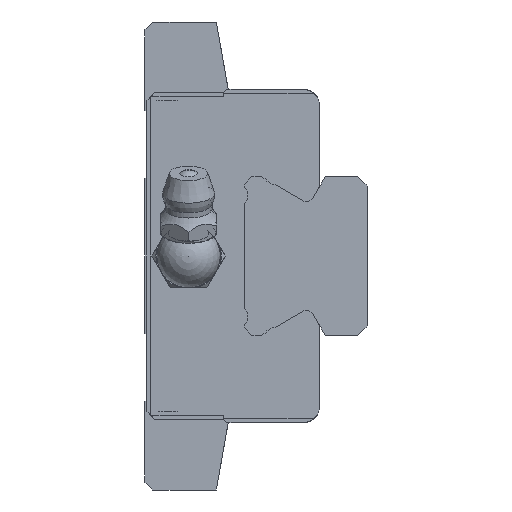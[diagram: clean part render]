
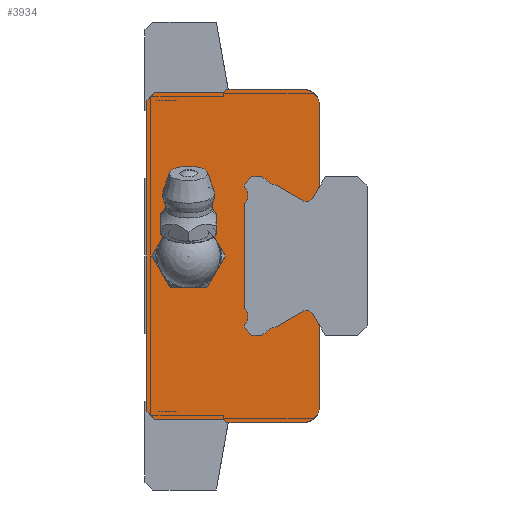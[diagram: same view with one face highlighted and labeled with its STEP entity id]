
A CAD part, left-side view. The second image highlights one B-rep face of the part: STEP entity #3934.
In plain terms, the highlighted planar face has unit normal (-1, 0, 0).
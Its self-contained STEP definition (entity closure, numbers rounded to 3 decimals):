
#96=LINE('',#6015,#452);
#103=LINE('',#6029,#459);
#136=LINE('',#6100,#492);
#152=LINE('',#6133,#508);
#155=LINE('',#6138,#511);
#162=LINE('',#6155,#518);
#179=LINE('',#6184,#535);
#183=LINE('',#6193,#539);
#185=LINE('',#6198,#541);
#188=LINE('',#6206,#544);
#189=LINE('',#6210,#545);
#190=LINE('',#6212,#546);
#191=LINE('',#6214,#547);
#192=LINE('',#6218,#548);
#193=LINE('',#6222,#549);
#194=LINE('',#6224,#550);
#195=LINE('',#6226,#551);
#196=LINE('',#6228,#552);
#197=LINE('',#6232,#553);
#198=LINE('',#6236,#554);
#199=LINE('',#6238,#555);
#200=LINE('',#6240,#556);
#201=LINE('',#6242,#557);
#202=LINE('',#6246,#558);
#452=VECTOR('',#4735,1000.);
#459=VECTOR('',#4746,1000.);
#492=VECTOR('',#4801,1000.);
#508=VECTOR('',#4823,1000.);
#511=VECTOR('',#4828,1000.);
#518=VECTOR('',#4845,1000.);
#535=VECTOR('',#4868,1000.);
#539=VECTOR('',#4874,1000.);
#541=VECTOR('',#4878,1000.);
#544=VECTOR('',#4885,1000.);
#545=VECTOR('',#4888,1000.);
#546=VECTOR('',#4889,1000.);
#547=VECTOR('',#4892,1000.);
#548=VECTOR('',#4895,1000.);
#549=VECTOR('',#4898,1000.);
#550=VECTOR('',#4899,1000.);
#551=VECTOR('',#4900,1000.);
#552=VECTOR('',#4901,1000.);
#553=VECTOR('',#4904,1000.);
#554=VECTOR('',#4907,1000.);
#555=VECTOR('',#4908,1000.);
#556=VECTOR('',#4909,1000.);
#557=VECTOR('',#4910,1000.);
#558=VECTOR('',#4913,1000.);
#803=PLANE('',#4240);
#1013=CIRCLE('',#4241,3.);
#1014=CIRCLE('',#4242,2.);
#1015=CIRCLE('',#4243,2.);
#1016=CIRCLE('',#4244,1.);
#1017=CIRCLE('',#4245,1.65);
#1018=CIRCLE('',#4246,1.65);
#1019=CIRCLE('',#4247,1.65);
#1020=CIRCLE('',#4248,1.65);
#1021=CIRCLE('',#4249,1.);
#1431=ORIENTED_EDGE('',*,*,#2397,.T.);
#1432=ORIENTED_EDGE('',*,*,#2398,.F.);
#1433=ORIENTED_EDGE('',*,*,#2392,.F.);
#1434=ORIENTED_EDGE('',*,*,#2399,.F.);
#1435=ORIENTED_EDGE('',*,*,#2400,.F.);
#1436=ORIENTED_EDGE('',*,*,#2401,.F.);
#1437=ORIENTED_EDGE('',*,*,#2371,.F.);
#1438=ORIENTED_EDGE('',*,*,#2359,.F.);
#1439=ORIENTED_EDGE('',*,*,#2388,.F.);
#1440=ORIENTED_EDGE('',*,*,#2343,.F.);
#1441=ORIENTED_EDGE('',*,*,#2362,.F.);
#1442=ORIENTED_EDGE('',*,*,#2308,.F.);
#1443=ORIENTED_EDGE('',*,*,#2301,.F.);
#1444=ORIENTED_EDGE('',*,*,#2402,.F.);
#1445=ORIENTED_EDGE('',*,*,#2394,.F.);
#1446=ORIENTED_EDGE('',*,*,#2403,.F.);
#1447=ORIENTED_EDGE('',*,*,#2404,.T.);
#1448=ORIENTED_EDGE('',*,*,#2405,.F.);
#1449=ORIENTED_EDGE('',*,*,#2406,.T.);
#1450=ORIENTED_EDGE('',*,*,#2407,.F.);
#1451=ORIENTED_EDGE('',*,*,#2408,.F.);
#1452=ORIENTED_EDGE('',*,*,#2409,.F.);
#1453=ORIENTED_EDGE('',*,*,#2410,.F.);
#1454=ORIENTED_EDGE('',*,*,#2411,.T.);
#1455=ORIENTED_EDGE('',*,*,#2412,.F.);
#1456=ORIENTED_EDGE('',*,*,#2413,.T.);
#1457=ORIENTED_EDGE('',*,*,#2414,.F.);
#1458=ORIENTED_EDGE('',*,*,#2415,.F.);
#1459=ORIENTED_EDGE('',*,*,#2416,.F.);
#1460=ORIENTED_EDGE('',*,*,#2417,.F.);
#1461=ORIENTED_EDGE('',*,*,#2418,.T.);
#1462=ORIENTED_EDGE('',*,*,#2419,.F.);
#1463=ORIENTED_EDGE('',*,*,#2420,.T.);
#2301=EDGE_CURVE('',#2808,#2806,#96,.T.);
#2308=EDGE_CURVE('',#2806,#2813,#103,.T.);
#2343=EDGE_CURVE('',#2840,#2841,#136,.T.);
#2359=EDGE_CURVE('',#2854,#2855,#152,.T.);
#2362=EDGE_CURVE('',#2813,#2840,#155,.T.);
#2371=EDGE_CURVE('',#2855,#2861,#162,.T.);
#2388=EDGE_CURVE('',#2841,#2854,#179,.T.);
#2392=EDGE_CURVE('',#2873,#2871,#183,.T.);
#2394=EDGE_CURVE('',#2874,#2876,#185,.T.);
#2397=EDGE_CURVE('',#2878,#2878,#1013,.T.);
#2398=EDGE_CURVE('',#2871,#2879,#188,.T.);
#2399=EDGE_CURVE('',#2880,#2873,#1014,.T.);
#2400=EDGE_CURVE('',#2881,#2880,#189,.T.);
#2401=EDGE_CURVE('',#2861,#2881,#190,.T.);
#2402=EDGE_CURVE('',#2876,#2808,#1015,.T.);
#2403=EDGE_CURVE('',#2882,#2874,#191,.T.);
#2404=EDGE_CURVE('',#2882,#2883,#1016,.F.);
#2405=EDGE_CURVE('',#2884,#2883,#192,.T.);
#2406=EDGE_CURVE('',#2884,#2885,#1017,.F.);
#2407=EDGE_CURVE('',#2886,#2885,#193,.T.);
#2408=EDGE_CURVE('',#2887,#2886,#194,.T.);
#2409=EDGE_CURVE('',#2888,#2887,#195,.T.);
#2410=EDGE_CURVE('',#2889,#2888,#196,.T.);
#2411=EDGE_CURVE('',#2889,#2890,#1018,.F.);
#2412=EDGE_CURVE('',#2891,#2890,#197,.T.);
#2413=EDGE_CURVE('',#2891,#2892,#1019,.F.);
#2414=EDGE_CURVE('',#2893,#2892,#198,.T.);
#2415=EDGE_CURVE('',#2894,#2893,#199,.T.);
#2416=EDGE_CURVE('',#2895,#2894,#200,.T.);
#2417=EDGE_CURVE('',#2896,#2895,#201,.T.);
#2418=EDGE_CURVE('',#2896,#2897,#1020,.F.);
#2419=EDGE_CURVE('',#2898,#2897,#202,.T.);
#2420=EDGE_CURVE('',#2898,#2879,#1021,.F.);
#2806=VERTEX_POINT('',#6010);
#2808=VERTEX_POINT('',#6014);
#2813=VERTEX_POINT('',#6027);
#2840=VERTEX_POINT('',#6099);
#2841=VERTEX_POINT('',#6101);
#2854=VERTEX_POINT('',#6132);
#2855=VERTEX_POINT('',#6134);
#2861=VERTEX_POINT('',#6156);
#2871=VERTEX_POINT('',#6188);
#2873=VERTEX_POINT('',#6192);
#2874=VERTEX_POINT('',#6196);
#2876=VERTEX_POINT('',#6199);
#2878=VERTEX_POINT('',#6205);
#2879=VERTEX_POINT('',#6207);
#2880=VERTEX_POINT('',#6209);
#2881=VERTEX_POINT('',#6211);
#2882=VERTEX_POINT('',#6215);
#2883=VERTEX_POINT('',#6217);
#2884=VERTEX_POINT('',#6219);
#2885=VERTEX_POINT('',#6221);
#2886=VERTEX_POINT('',#6223);
#2887=VERTEX_POINT('',#6225);
#2888=VERTEX_POINT('',#6227);
#2889=VERTEX_POINT('',#6229);
#2890=VERTEX_POINT('',#6231);
#2891=VERTEX_POINT('',#6233);
#2892=VERTEX_POINT('',#6235);
#2893=VERTEX_POINT('',#6237);
#2894=VERTEX_POINT('',#6239);
#2895=VERTEX_POINT('',#6241);
#2896=VERTEX_POINT('',#6243);
#2897=VERTEX_POINT('',#6245);
#2898=VERTEX_POINT('',#6247);
#3221=EDGE_LOOP('',(#1431));
#3222=EDGE_LOOP('',(#1432,#1433,#1434,#1435,#1436,#1437,#1438,#1439,#1440,
#1441,#1442,#1443,#1444,#1445,#1446,#1447,#1448,#1449,#1450,#1451,#1452,
#1453,#1454,#1455,#1456,#1457,#1458,#1459,#1460,#1461,#1462,#1463));
#3578=FACE_BOUND('',#3221,.T.);
#3579=FACE_BOUND('',#3222,.T.);
#3934=ADVANCED_FACE('',(#3578,#3579),#803,.F.);
#4240=AXIS2_PLACEMENT_3D('',#6203,#4881,#4882);
#4241=AXIS2_PLACEMENT_3D('',#6204,#4883,#4884);
#4242=AXIS2_PLACEMENT_3D('',#6208,#4886,#4887);
#4243=AXIS2_PLACEMENT_3D('',#6213,#4890,#4891);
#4244=AXIS2_PLACEMENT_3D('',#6216,#4893,#4894);
#4245=AXIS2_PLACEMENT_3D('',#6220,#4896,#4897);
#4246=AXIS2_PLACEMENT_3D('',#6230,#4902,#4903);
#4247=AXIS2_PLACEMENT_3D('',#6234,#4905,#4906);
#4248=AXIS2_PLACEMENT_3D('',#6244,#4911,#4912);
#4249=AXIS2_PLACEMENT_3D('',#6248,#4914,#4915);
#4735=DIRECTION('',(0.,1.,0.));
#4746=DIRECTION('',(0.,0.707,0.707));
#4801=DIRECTION('',(0.,0.707,0.707));
#4823=DIRECTION('',(0.,-0.707,0.707));
#4828=DIRECTION('',(0.,1.,0.));
#4845=DIRECTION('',(0.,-1.,0.));
#4868=DIRECTION('',(0.,0.,1.));
#4874=DIRECTION('',(0.,0.,-1.));
#4878=DIRECTION('',(0.,0.,-1.));
#4881=DIRECTION('',(1.,0.,0.));
#4882=DIRECTION('',(0.,0.,-1.));
#4883=DIRECTION('',(1.,0.,0.));
#4884=DIRECTION('',(0.,0.,-1.));
#4885=DIRECTION('',(0.,0.499,-0.867));
#4886=DIRECTION('',(1.,0.,0.));
#4887=DIRECTION('',(0.,0.,-1.));
#4888=DIRECTION('',(0.,-1.,0.));
#4889=DIRECTION('',(0.,-0.707,0.707));
#4890=DIRECTION('',(1.,0.,0.));
#4891=DIRECTION('',(0.,0.,-1.));
#4892=DIRECTION('',(0.,-0.499,-0.867));
#4893=DIRECTION('',(1.,0.,0.));
#4894=DIRECTION('',(0.,0.,-1.));
#4895=DIRECTION('',(0.,-0.862,0.506));
#4896=DIRECTION('',(1.,0.,0.));
#4897=DIRECTION('',(0.,0.,-1.));
#4898=DIRECTION('',(0.,-0.862,0.506));
#4899=DIRECTION('',(0.,-1.,0.));
#4900=DIRECTION('',(0.,-0.707,-0.707));
#4901=DIRECTION('',(0.,0.,-1.));
#4902=DIRECTION('',(1.,0.,0.));
#4903=DIRECTION('',(0.,0.,-1.));
#4904=DIRECTION('',(0.,0.,-1.));
#4905=DIRECTION('',(1.,0.,0.));
#4906=DIRECTION('',(0.,0.,-1.));
#4907=DIRECTION('',(0.,0.,-1.));
#4908=DIRECTION('',(0.,0.707,-0.707));
#4909=DIRECTION('',(0.,1.,0.));
#4910=DIRECTION('',(0.,0.862,0.506));
#4911=DIRECTION('',(1.,0.,0.));
#4912=DIRECTION('',(0.,0.,-1.));
#4913=DIRECTION('',(0.,0.862,0.506));
#4914=DIRECTION('',(1.,0.,0.));
#4915=DIRECTION('',(0.,0.,-1.));
#6010=CARTESIAN_POINT('',(-23.85,11.66,-21.));
#6014=CARTESIAN_POINT('',(-23.85,2.,-21.));
#6015=CARTESIAN_POINT('',(-23.85,2.,-21.));
#6027=CARTESIAN_POINT('',(-23.85,12.06,-20.6));
#6029=CARTESIAN_POINT('',(-23.85,11.66,-21.));
#6099=CARTESIAN_POINT('',(-23.85,20.75,-20.6));
#6100=CARTESIAN_POINT('',(-23.85,20.75,-20.6));
#6101=CARTESIAN_POINT('',(-23.85,21.75,-19.6));
#6132=CARTESIAN_POINT('',(-23.85,21.75,19.6));
#6133=CARTESIAN_POINT('',(-23.85,21.75,19.6));
#6134=CARTESIAN_POINT('',(-23.85,20.75,20.6));
#6138=CARTESIAN_POINT('',(-23.85,12.06,-20.6));
#6155=CARTESIAN_POINT('',(-23.85,20.75,20.6));
#6156=CARTESIAN_POINT('',(-23.85,12.06,20.6));
#6184=CARTESIAN_POINT('',(-23.85,21.75,-19.6));
#6188=CARTESIAN_POINT('',(-23.85,0.,8.736));
#6192=CARTESIAN_POINT('',(-23.85,0.,19.));
#6193=CARTESIAN_POINT('',(-23.85,0.,19.));
#6196=CARTESIAN_POINT('',(-23.85,0.,-8.736));
#6198=CARTESIAN_POINT('',(-23.85,0.,19.));
#6199=CARTESIAN_POINT('',(-23.85,0.,-19.));
#6203=CARTESIAN_POINT('',(-23.85,2.,19.));
#6204=CARTESIAN_POINT('',(-23.85,16.5,0.));
#6205=CARTESIAN_POINT('',(-23.85,16.5,-3.));
#6206=CARTESIAN_POINT('',(-23.85,-3.939,15.584));
#6207=CARTESIAN_POINT('',(-23.85,0.794,7.356));
#6208=CARTESIAN_POINT('',(-23.85,2.,19.));
#6209=CARTESIAN_POINT('',(-23.85,2.,21.));
#6210=CARTESIAN_POINT('',(-23.85,11.66,21.));
#6211=CARTESIAN_POINT('',(-23.85,11.66,21.));
#6212=CARTESIAN_POINT('',(-23.85,12.06,20.6));
#6213=CARTESIAN_POINT('',(-23.85,2.,-19.));
#6214=CARTESIAN_POINT('',(-23.85,12.486,12.968));
#6215=CARTESIAN_POINT('',(-23.85,0.794,-7.356));
#6216=CARTESIAN_POINT('',(-23.85,1.66,-7.856));
#6217=CARTESIAN_POINT('',(-23.85,2.166,-6.994));
#6218=CARTESIAN_POINT('',(-23.85,-9.303,-0.264));
#6219=CARTESIAN_POINT('',(-23.85,5.593,-9.004));
#6220=CARTESIAN_POINT('',(-23.85,5.476,-10.65));
#6221=CARTESIAN_POINT('',(-23.85,6.856,-9.745));
#6222=CARTESIAN_POINT('',(-23.85,-9.303,-0.264));
#6223=CARTESIAN_POINT('',(-23.85,7.29,-10.));
#6224=CARTESIAN_POINT('',(-23.85,2.,-10.));
#6225=CARTESIAN_POINT('',(-23.85,8.54,-10.));
#6226=CARTESIAN_POINT('',(-23.85,19.77,1.23));
#6227=CARTESIAN_POINT('',(-23.85,9.5,-9.04));
#6228=CARTESIAN_POINT('',(-23.85,9.5,19.));
#6229=CARTESIAN_POINT('',(-23.85,9.5,-8.797));
#6230=CARTESIAN_POINT('',(-23.85,10.686,-7.65));
#6231=CARTESIAN_POINT('',(-23.85,9.5,-6.503));
#6232=CARTESIAN_POINT('',(-23.85,9.5,19.));
#6233=CARTESIAN_POINT('',(-23.85,9.5,6.503));
#6234=CARTESIAN_POINT('',(-23.85,10.686,7.65));
#6235=CARTESIAN_POINT('',(-23.85,9.5,8.797));
#6236=CARTESIAN_POINT('',(-23.85,9.5,19.));
#6237=CARTESIAN_POINT('',(-23.85,9.5,9.04));
#6238=CARTESIAN_POINT('',(-23.85,0.77,17.77));
#6239=CARTESIAN_POINT('',(-23.85,8.54,10.));
#6240=CARTESIAN_POINT('',(-23.85,2.,10.));
#6241=CARTESIAN_POINT('',(-23.85,7.29,10.));
#6242=CARTESIAN_POINT('',(-23.85,7.283,9.996));
#6243=CARTESIAN_POINT('',(-23.85,6.856,9.745));
#6244=CARTESIAN_POINT('',(-23.85,5.476,10.65));
#6245=CARTESIAN_POINT('',(-23.85,5.593,9.004));
#6246=CARTESIAN_POINT('',(-23.85,7.283,9.996));
#6247=CARTESIAN_POINT('',(-23.85,2.166,6.994));
#6248=CARTESIAN_POINT('',(-23.85,1.66,7.856));
